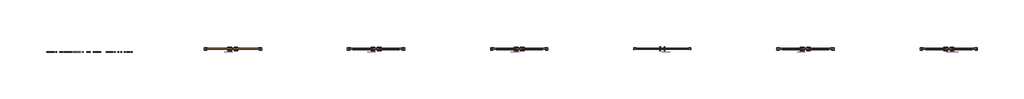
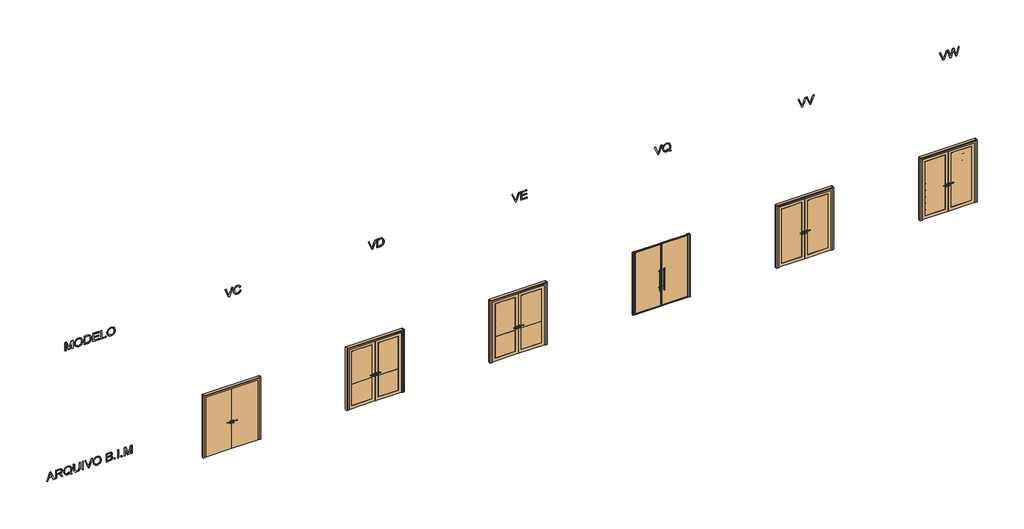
# One storey: 8 proxies, 6 doors.
"""IFC4 building model written with IfcOpenShell, lengths in millimetres."""

from ifc_helpers import new_model, si_unit, frame, origin, place, context, project, spatial, polyline, outline, extrude, transform, mapped, element, save
from components import vc_ec550be7, vd_505fe819, ve_1859068e, vq_b7f1955d, vv_b9688fd8, vw_93026b2b

model = new_model("IFC4")

# Units and contexts
model_context = context("Model", 3, world=origin())
ifc_project = project(units=[si_unit("LENGTHUNIT", "METRE", prefix="MILLI")], contexts=[model_context])

# Site, building, storey
site = spatial("IfcSite", under=ifc_project)
building = spatial("IfcBuilding", under=site)
storey = spatial("IfcBuildingStorey", under=building, Name="06 - Marelli - Planta Baixa - Porta de Giro (02 Folhas)", Elevation=60000.0)

# Proxies
placement = place(None, origin())
element("IfcBuildingElementProxy", 1, Name="300mm Arial", ObjectType="300mm Arial", at=placement, inside=storey, context=model_context, shape_type="SweptSolid", body=[
    extrude(outline(polyline([(61100.0, -7636.3146377), (61100.0, -7596.5098058), (61194.1777908, -7562.076051), (61194.1777908, -7437.9526659), (61100.0, -7403.4453347), (61100.0, -7363.6405028), (61401.3689304, -7483.9379153), (61401.3689304, -7516.0172252), (61100.0, -7636.3146377)]), holes=[polyline([(61231.8489071, -7548.243688), (61312.415064, -7518.739552), (61363.6978141, -7499.9775703), (61305.9403409, -7478.8611437), (61231.8489071, -7451.7114525), (61231.8489071, -7548.243688)])]), frame((0.0, 8778.3159498, 0.0), z_axis=(0.0, 1.0, 0.0), x_axis=(0.0, 0.0, 1.0)), (0.0, 0.0, 1.0), 10.0),
    extrude(outline(polyline([(61100.0, -7323.3942126), (61100.0, -7285.7230963), (61231.8489071, -7285.7230963), (61231.8489071, -7240.2528817), (61230.5245319, -7218.4006911), (61223.350833, -7200.484838), (61203.816299, -7180.582422), (61162.4663628, -7152.2555084), (61100.0, -7113.0392877), (61100.0, -7069.2613303), (61181.6698029, -7119.5140108), (61220.4445652, -7150.0482164), (61236.5577966, -7171.4589486), (61246.5457928, -7134.3488523), (61254.5610217, -7119.9669655), (61264.5904046, -7108.3671864), (61289.2017101, -7093.0540983), (61318.8897871, -7087.9497357), (61342.7561316, -7091.0307474), (61364.4703663, -7100.2737825), (61381.9815493, -7114.6763626), (61393.2387384, -7133.2360093), (61399.3363824, -7158.629064), (61401.3689304, -7193.5318683), (61401.3689304, -7323.3942126), (61100.0, -7323.3942126)]), holes=[polyline([(61269.5200234, -7285.7230963), (61363.6978141, -7285.7230963), (61363.6978141, -7191.9131875), (61360.4420585, -7162.1055488), (61350.6747915, -7141.5501423), (61335.8675412, -7129.6031746), (61317.4918355, -7125.620852), (61304.1837044, -7127.7085823), (61291.9240369, -7133.9717732), (61281.7888879, -7144.254075), (61274.8543123, -7158.3991377), (61270.8535956, -7177.1887106), (61269.5200234, -7201.404543), (61269.5200234, -7285.7230963)])]), frame((0.0, 8778.3159498, 0.0), z_axis=(0.0, 1.0, 0.0), x_axis=(0.0, 0.0, 1.0)), (0.0, 0.0, 1.0), 10.0),
    extrude(outline(polyline([(61136.1260119, -6795.6307023), (61159.6520655, -6777.1814202), (61186.9673037, -6764.0664271), (61218.0349382, -6756.2305406), (61252.8181808, -6753.6185784), (61294.6463636, -6757.9227978), (61331.9863862, -6770.8354558), (61363.1827793, -6791.9610794), (61386.5800742, -6820.9041954), (61401.2033836, -6855.7702114), (61406.07782, -6894.6645354), (61401.3137481, -6933.2553567), (61387.0215326, -6967.9466288), (61363.6150407, -6996.93573), (61331.5081396, -7018.4200386), (61293.055274, -7031.7189727), (61250.6108888, -7036.1519507), (61208.2032918, -7031.7097756), (61170.3022493, -7018.3832504), (61138.6460036, -6996.8161684), (61114.9727972, -6967.6523232), (61100.2115321, -6932.8322924), (61095.2911105, -6894.2966534), (61099.5585416, -6855.9449554), (61112.360835, -6821.0881364), (61091.52032, -6790.1308665), (61077.1177399, -6759.063232), (61104.7088895, -6748.9096889), (61117.5295771, -6771.2953083), (61136.1260119, -6795.6307023)]), holes=[polyline([(61186.2315397, -6883.9223811), (61157.3895912, -6893.6344658), (61150.712533, -6873.2721974), (61140.6877487, -6853.9767867), (61134.8936072, -6873.6032912), (61132.9622268, -6894.5173826), (61134.8637168, -6916.2385151), (61140.568187, -6935.9316982), (61150.0756373, -6953.5969318), (61163.3860678, -6969.2342158), (61180.251158, -6982.0296115), (61200.4225876, -6991.1691798), (61223.9003567, -6996.6529208), (61250.6844652, -6998.4808344), (61278.1859436, -6996.6322274), (61302.0499888, -6991.0864063), (61322.2766007, -6981.8433712), (61338.8657795, -6968.903122), (61351.7899338, -6953.1577726), (61361.0214726, -6935.4994369), (61366.5603959, -6915.9281147), (61368.4067037, -6894.4438062), (61364.7554749, -6865.9605427), (61353.8017885, -6840.4019411), (61336.2354232, -6819.2027411), (61312.7461578, -6803.7976826), (61284.0605592, -6794.4166917), (61250.9051944, -6791.2896947), (61221.7321522, -6793.5015852), (61196.4586591, -6800.1372567), (61175.0847152, -6811.1967092), (61157.6103204, -6826.6799427), (61174.2569807, -6852.2477413), (61186.2315397, -6883.9223811)])]), frame((0.0, 8778.3159498, 0.0), z_axis=(0.0, 1.0, 0.0), x_axis=(0.0, 0.0, 1.0)), (0.0, 0.0, 1.0), 10.0),
    extrude(outline(polyline([(61401.3689304, -6499.3385434), (61228.8322747, -6499.3385434), (61181.6698029, -6504.1026152), (61164.9311721, -6510.057705), (61152.7542781, -6518.3948307), (61144.0952556, -6529.5278596), (61137.9102396, -6543.8706589), (61132.9622268, -6582.1855687), (61135.4638243, -6606.3554158), (61142.968617, -6626.4785609), (61155.0811317, -6641.9112106), (61171.4058953, -6652.0095714), (61194.9779341, -6657.5829836), (61228.8322747, -6659.4407877), (61401.3689304, -6659.4407877), (61401.3689304, -6697.111904), (61227.5078995, -6697.111904), (61184.7324205, -6694.2516215), (61152.0553023, -6685.6707739), (61127.6923172, -6670.4036711), (61109.8592375, -6647.4846228), (61098.9331422, -6616.904432), (61095.2911105, -6578.6539015), (61099.4757682, -6539.5480454), (61112.0297412, -6508.7563224), (61131.2515755, -6486.2235502), (61155.4398167, -6471.8945465), (61186.7925597, -6464.2242069), (61227.5078995, -6461.6674271), (61401.3689304, -6461.6674271), (61401.3689304, -6499.3385434)])), frame((0.0, 8778.3159498, 0.0), z_axis=(0.0, 1.0, 0.0), x_axis=(0.0, 0.0, 1.0)), (0.0, 0.0, 1.0), 10.0),
    extrude(outline(polyline([(-6353.3629677, 8778.3159498), (-6391.034084, 8778.3159498), (-6391.034084, 8788.3159498), (-6353.3629677, 8788.3159498), (-6353.3629677, 8778.3159498)])), frame((0.0, 0.0, 61100.0), z_axis=(0.0, 0.0, 1.0), x_axis=(1.0, 0.0, 0.0)), (0.0, 0.0, 1.0), 301.3689304),
    extrude(outline(polyline([(61100.0, -6188.9932922), (61100.0, -6150.0713771), (61401.3689304, -6035.2186183), (61401.3689304, -6075.5384849), (61184.2449769, -6156.0310655), (61135.3166715, -6172.0707205), (61184.2449769, -6188.3311046), (61401.3689304, -6268.602956), (61401.3689304, -6308.9228227), (61100.0, -6188.9932922)])), frame((0.0, 8778.3159498, 0.0), z_axis=(0.0, 1.0, 0.0), x_axis=(0.0, 0.0, 1.0)), (0.0, 0.0, 1.0), 10.0),
    extrude(outline(polyline([(61246.7113397, -6014.3229209), (61208.1665036, -6010.0187016), (61171.7002009, -5997.1060436), (61140.007167, -5975.8424642), (61115.7821376, -5946.485481), (61100.4138672, -5910.8377157), (61095.2911105, -5870.70179), (61099.9264236, -5832.892718), (61113.832363, -5797.7507904), (61136.7514113, -5767.7868019), (61168.4260511, -5745.5115471), (61206.8881137, -5731.6883811), (61250.1694304, -5727.0806591), (61292.8805301, -5731.4584548), (61330.8091638, -5744.5918421), (61362.4286213, -5766.0761506), (61386.2121922, -5795.5067102), (61401.1114131, -5830.9521404), (61406.07782, -5870.4810608), (61403.4336681, -5900.7715446), (61395.5012126, -5928.1465636), (61382.2804534, -5952.6061177), (61363.7713905, -5974.1502071), (61340.5902263, -5991.7257694), (61313.3531631, -6004.2797425), (61282.0602009, -6011.8121263), (61246.7113397, -6014.3229209)]), holes=[polyline([(61246.3434577, -5976.6518046), (61276.8799625, -5974.6882345), (61302.7121764, -5968.797524), (61323.8400992, -5958.9796733), (61340.263731, -5945.2346822), (61352.5762816, -5928.7673644), (61361.3709605, -5910.7825334), (61366.6477679, -5891.2801891), (61368.4067037, -5870.2603316), (61364.7554749, -5841.0964864), (61353.8017885, -5814.9676677), (61336.2078321, -5793.3086153), (61312.6357932, -5777.5540688), (61283.8122389, -5767.9523488), (61250.463736, -5764.7517754), (61223.9256486, -5766.6210758), (61200.5973316, -5772.228977), (61180.478785, -5781.5754789), (61163.5700088, -5794.6605816), (61150.1791041, -5810.642755), (61140.6141723, -5828.6804691), (61134.8752131, -5848.7737238), (61132.9622268, -5870.9225192), (61134.856819, -5892.6988341), (61140.5405959, -5912.557564), (61150.0135572, -5930.4987091), (61163.2757032, -5946.5222692), (61179.8349915, -5959.703941), (61199.19938, -5969.1194208), (61221.3688687, -5974.7687087), (61246.3434577, -5976.6518046)])]), frame((0.0, 8778.3159498, 0.0), z_axis=(0.0, 1.0, 0.0), x_axis=(0.0, 0.0, 1.0)), (0.0, 0.0, 1.0), 10.0),
    extrude(outline(polyline([(61100.0, -5557.5606357), (61100.0, -5443.4436408), (61105.1871361, -5395.1407348), (61111.6066769, -5377.10532), (61120.4910271, -5362.3624491), (61132.7598917, -5350.3235108), (61149.3329756, -5340.399894), (61168.8215242, -5333.7504269), (61189.8367832, -5331.5339379), (61215.055094, -5334.7804965), (61236.7049494, -5344.5201723), (61253.6643094, -5360.2931129), (61264.8111338, -5381.6394656), (61276.5557665, -5363.7695977), (61291.4825785, -5351.0684718), (61308.543106, -5343.4809057), (61326.6888854, -5340.951717), (61346.4073604, -5343.9591523), (61365.2429185, -5352.9814582), (61381.2549824, -5367.3104619), (61392.5029744, -5386.2379906), (61399.1524414, -5410.9320695), (61401.3689304, -5442.560724), (61401.3689304, -5557.5606357), (61100.0, -5557.5606357)]), holes=[polyline([(61278.9378025, -5519.8895194), (61363.6978141, -5519.8895194), (61363.6978141, -5456.3195106), (61359.7614768, -5407.9062401), (61354.1604734, -5395.4166463), (61345.230138, -5386.2012024), (61333.7890079, -5380.5174255), (61320.6556207, -5378.6228333), (61307.1267603, -5380.6553813), (61296.1178916, -5386.7530254), (61287.7577733, -5396.8605832), (61282.175164, -5410.9228724), (61278.9378025, -5451.0955863), (61278.9378025, -5519.8895194)]), polyline([(61137.6711163, -5519.8895194), (61241.2666861, -5519.8895194), (61241.2666861, -5446.3131204), (61240.0066903, -5419.4853259), (61236.2267028, -5399.776048), (61229.3381125, -5385.8609115), (61218.752308, -5376.4155413), (61205.2142506, -5371.007676), (61189.4689012, -5369.2050542), (61175.9124497, -5370.7409615), (61164.0850436, -5375.3486835), (61147.3464128, -5391.0204565), (61139.1426443, -5414.6752688), (61137.6711163, -5442.6343004), (61137.6711163, -5519.8895194)])]), frame((0.0, 8778.3159498, 0.0), z_axis=(0.0, 1.0, 0.0), x_axis=(0.0, 0.0, 1.0)), (0.0, 0.0, 1.0), 10.0),
    extrude(outline(polyline([(-5237.3561471, 8778.3159498), (-5275.0272634, 8778.3159498), (-5275.0272634, 8788.3159498), (-5237.3561471, 8788.3159498), (-5237.3561471, 8778.3159498)])), frame((0.0, 0.0, 61100.0), z_axis=(0.0, 0.0, 1.0), x_axis=(1.0, 0.0, 0.0)), (0.0, 0.0, 1.0), 37.6711163),
    extrude(outline(polyline([(-5119.6339087, 8778.3159498), (-5157.305025, 8778.3159498), (-5157.305025, 8788.3159498), (-5119.6339087, 8788.3159498), (-5119.6339087, 8778.3159498)])), frame((0.0, 0.0, 61100.0), z_axis=(0.0, 0.0, 1.0), x_axis=(1.0, 0.0, 0.0)), (0.0, 0.0, 1.0), 301.3689304),
    extrude(outline(polyline([(-5001.9116702, 8778.3159498), (-5039.5827865, 8778.3159498), (-5039.5827865, 8788.3159498), (-5001.9116702, 8788.3159498), (-5001.9116702, 8778.3159498)])), frame((0.0, 0.0, 61100.0), z_axis=(0.0, 0.0, 1.0), x_axis=(1.0, 0.0, 0.0)), (0.0, 0.0, 1.0), 37.6711163),
    extrude(outline(polyline([(61100.0, -4926.5694376), (61100.0, -4888.8983213), (61363.6978141, -4888.8983213), (61100.0, -4813.1882067), (61100.0, -4762.1261857), (61363.6978141, -4686.4160711), (61100.0, -4686.4160711), (61100.0, -4648.7449548), (61401.3689304, -4648.7449548), (61401.3689304, -4713.5657624), (61192.6326864, -4774.1927152), (61144.5872978, -4787.6571962), (61188.9538664, -4800.0916076), (61401.3689304, -4861.74863), (61401.3689304, -4926.5694376), (61100.0, -4926.5694376)])), frame((0.0, 8778.3159498, 0.0), z_axis=(0.0, 1.0, 0.0), x_axis=(0.0, 0.0, 1.0)), (0.0, 0.0, 1.0), 10.0),
])
element("IfcBuildingElementProxy", 2, Name="300mm Arial", ObjectType="300mm Arial", at=placement, inside=storey, context=model_context, shape_type="SweptSolid", body=[
    extrude(outline(polyline([(65700.0, -6993.7719449), (65700.0, -6956.1008286), (65963.6978141, -6956.1008286), (65700.0, -6880.390714), (65700.0, -6829.328693), (65963.6978141, -6753.6185784), (65700.0, -6753.6185784), (65700.0, -6715.9474621), (66001.3689304, -6715.9474621), (66001.3689304, -6780.7682697), (65792.6326864, -6841.3952225), (65744.5872978, -6854.8597035), (65788.9538664, -6867.2941149), (66001.3689304, -6928.9511373), (66001.3689304, -6993.7719449), (65700.0, -6993.7719449)])), frame((0.0, 8778.3159498, 0.0), z_axis=(0.0, 1.0, 0.0), x_axis=(0.0, 0.0, 1.0)), (0.0, 0.0, 1.0), 10.0),
    extrude(outline(polyline([(65846.7113397, -6664.1496772), (65808.1665036, -6659.8454579), (65771.7002009, -6646.9327998), (65740.007167, -6625.6692205), (65715.7821376, -6596.3122373), (65700.4138672, -6560.664472), (65695.2911105, -6520.5285463), (65699.9264236, -6482.7194742), (65713.832363, -6447.5775466), (65736.7514113, -6417.6135581), (65768.4260511, -6395.3383033), (65806.8881137, -6381.5151374), (65850.1694304, -6376.9074154), (65892.8805301, -6381.2852111), (65930.8091638, -6394.4185983), (65962.4286213, -6415.9029069), (65986.2121922, -6445.3334665), (66001.1114131, -6480.7788967), (66006.07782, -6520.3078171), (66003.4336681, -6550.5983009), (65995.5012126, -6577.9733198), (65982.2804534, -6602.432874), (65963.7713905, -6623.9769633), (65940.5902263, -6641.5525257), (65913.3531631, -6654.1064987), (65882.0602009, -6661.6388826), (65846.7113397, -6664.1496772)]), holes=[polyline([(65846.3434577, -6626.4785609), (65876.8799625, -6624.5149908), (65902.7121764, -6618.6242803), (65923.8400992, -6608.8064296), (65940.263731, -6595.0614385), (65952.5762816, -6578.5941207), (65961.3709605, -6560.6092897), (65966.6477679, -6541.1069454), (65968.4067037, -6520.0870879), (65964.7554749, -6490.9232427), (65953.8017885, -6464.794424), (65936.2078321, -6443.1353716), (65912.6357932, -6427.3808251), (65883.8122389, -6417.779105), (65850.463736, -6414.5785317), (65823.9256486, -6416.4478321), (65800.5973316, -6422.0557332), (65780.478785, -6431.4022352), (65763.5700088, -6444.4873379), (65750.1791041, -6460.4695113), (65740.6141723, -6478.5072254), (65734.8752131, -6498.6004801), (65732.9622268, -6520.7492755), (65734.856819, -6542.5255903), (65740.5405959, -6562.3843203), (65750.0135572, -6580.3254653), (65763.2757032, -6596.3490255), (65779.8349915, -6609.5306972), (65799.19938, -6618.9461771), (65821.3688687, -6624.5954649), (65846.3434577, -6626.4785609)])]), frame((0.0, 8778.3159498, 0.0), z_axis=(0.0, 1.0, 0.0), x_axis=(0.0, 0.0, 1.0)), (0.0, 0.0, 1.0), 10.0),
    extrude(outline(polyline([(65700.0, -6325.1096305), (65700.0, -6216.1429835), (65705.1503479, -6167.6929247), (65711.5055094, -6148.1491937), (65720.2702979, -6131.6772774), (65732.088507, -6117.3298796), (65747.6039302, -6104.1597042), (65767.2580258, -6092.7185741), (65791.4922522, -6083.5583124), (65819.9571216, -6077.5434418), (65852.303146, -6075.5384849), (65890.3789325, -6078.499935), (65923.9665587, -6087.3842852), (65952.5142015, -6102.2283237), (65975.470038, -6123.0688387), (65988.6586075, -6143.3391366), (65997.0279229, -6167.3618309), (66001.3689304, -6221.1461786), (66001.3689304, -6325.1096305), (65700.0, -6325.1096305)]), holes=[polyline([(65737.6711163, -6287.4385141), (65963.6978141, -6287.4385141), (65963.6978141, -6221.8083662), (65962.189498, -6190.06015), (65957.6645494, -6168.3919005), (65945.0829852, -6147.10073), (65924.2608643, -6129.2860444), (65893.9473879, -6117.228712), (65852.8917572, -6113.2096012), (65821.9068962, -6115.2605434), (65795.9068361, -6121.4133697), (65774.7996067, -6131.245016), (65758.4932372, -6144.332418), (65749.6824634, -6156.5093121), (65743.1157698, -6172.2914497), (65739.0322797, -6193.2055411), (65737.6711163, -6220.7782966), (65737.6711163, -6287.4385141)])]), frame((0.0, 8778.3159498, 0.0), z_axis=(0.0, 1.0, 0.0), x_axis=(0.0, 0.0, 1.0)), (0.0, 0.0, 1.0), 10.0),
    extrude(outline(polyline([(65700.0, -6023.7407), (65700.0, -5802.4228917), (65737.6711163, -5802.4228917), (65737.6711163, -5986.0695837), (65836.5577966, -5986.0695837), (65836.5577966, -5816.5495603), (65874.2289129, -5816.5495603), (65874.2289129, -5986.0695837), (65963.6978141, -5986.0695837), (65963.6978141, -5807.1317812), (66001.3689304, -5807.1317812), (66001.3689304, -6023.7407), (65700.0, -6023.7407)])), frame((0.0, 8778.3159498, 0.0), z_axis=(0.0, 1.0, 0.0), x_axis=(0.0, 0.0, 1.0)), (0.0, 0.0, 1.0), 10.0),
    extrude(outline(polyline([(65700.0, -5745.9162172), (65700.0, -5557.5606357), (65737.6711163, -5557.5606357), (65737.6711163, -5708.2451009), (66001.3689304, -5708.2451009), (66001.3689304, -5745.9162172), (65700.0, -5745.9162172)])), frame((0.0, 8778.3159498, 0.0), z_axis=(0.0, 1.0, 0.0), x_axis=(0.0, 0.0, 1.0)), (0.0, 0.0, 1.0), 10.0),
    extrude(outline(polyline([(65846.7113397, -5529.3072985), (65808.1665036, -5525.0030791), (65771.7002009, -5512.0904211), (65740.007167, -5490.8268418), (65715.7821376, -5461.4698586), (65700.4138672, -5425.8220932), (65695.2911105, -5385.6861676), (65699.9264236, -5347.8770955), (65713.832363, -5312.7351679), (65736.7514113, -5282.7711794), (65768.4260511, -5260.4959246), (65806.8881137, -5246.6727586), (65850.1694304, -5242.0650367), (65892.8805301, -5246.4428324), (65930.8091638, -5259.5762196), (65962.4286213, -5281.0605281), (65986.2121922, -5310.4910878), (66001.1114131, -5345.936518), (66006.07782, -5385.4654384), (66003.4336681, -5415.7559222), (65995.5012126, -5443.1309411), (65982.2804534, -5467.5904953), (65963.7713905, -5489.1345846), (65940.5902263, -5506.7101469), (65913.3531631, -5519.26412), (65882.0602009, -5526.7965039), (65846.7113397, -5529.3072985)]), holes=[polyline([(65846.3434577, -5491.6361822), (65876.8799625, -5489.672612), (65902.7121764, -5483.7819016), (65923.8400992, -5473.9640508), (65940.263731, -5460.2190598), (65952.5762816, -5443.751742), (65961.3709605, -5425.7669109), (65966.6477679, -5406.2645667), (65968.4067037, -5385.2447092), (65964.7554749, -5356.080864), (65953.8017885, -5329.9520453), (65936.2078321, -5308.2929928), (65912.6357932, -5292.5384464), (65883.8122389, -5282.9367263), (65850.463736, -5279.736153), (65823.9256486, -5281.6054533), (65800.5973316, -5287.2133545), (65780.478785, -5296.5598565), (65763.5700088, -5309.6449592), (65750.1791041, -5325.6271326), (65740.6141723, -5343.6648467), (65734.8752131, -5363.7581014), (65732.9622268, -5385.9068968), (65734.856819, -5407.6832116), (65740.5405959, -5427.5419416), (65750.0135572, -5445.4830866), (65763.2757032, -5461.5066468), (65779.8349915, -5474.6883185), (65799.19938, -5484.1037983), (65821.3688687, -5489.7530862), (65846.3434577, -5491.6361822)])]), frame((0.0, 8778.3159498, 0.0), z_axis=(0.0, 1.0, 0.0), x_axis=(0.0, 0.0, 1.0)), (0.0, 0.0, 1.0), 10.0),
])
element("IfcBuildingElementProxy", 3, Name="300mm Arial", ObjectType="300mm Arial", at=placement, inside=storey, context=model_context, shape_type="SweptSolid", body=[
    extrude(outline(polyline([(65700.0, -1292.5888621), (65700.0, -1253.666947), (66001.3689304, -1138.8141881), (66001.3689304, -1179.1340548), (65784.2449769, -1259.6266353), (65735.3166715, -1275.6662903), (65784.2449769, -1291.9266745), (66001.3689304, -1372.1985258), (66001.3689304, -1412.5183925), (65700.0, -1292.5888621)])), frame((0.0, 8778.3159498, 0.0), z_axis=(0.0, 1.0, 0.0), x_axis=(0.0, 0.0, 1.0)), (0.0, 0.0, 1.0), 10.0),
    extrude(outline(polyline([(65807.127237, -891.8917929), (65774.863986, -904.077884), (65751.6506321, -923.8607383), (65737.6343281, -950.0631334), (65732.9622268, -981.507847), (65736.3927264, -1008.4827943), (65746.6842252, -1033.4895729), (65763.9102996, -1054.348482), (65788.144526, -1068.8798208), (65818.2372732, -1077.4054861), (65853.03891, -1080.2473745), (65881.4577941, -1077.8469444), (65909.0305497, -1070.6456544), (65933.4211259, -1057.5214642), (65952.2934723, -1037.3523338), (65964.3783958, -1010.7728597), (65968.4067037, -978.4176382), (65964.773869, -950.348242), (65953.8753649, -927.5027701), (65935.0306097, -909.6604933), (65907.5590217, -896.6006825), (65916.5353424, -858.9295662), (65954.3536115, -875.5670294), (65969.6758966, -887.3691437), (65982.6069487, -901.493513), (65992.8754549, -917.673423), (66000.2101022, -935.6421592), (66006.07782, -976.9461102), (66001.5436744, -1014.8011675), (65987.9412376, -1049.3452869), (65965.6016035, -1078.4723438), (65934.8558657, -1100.076214), (65896.9088379, -1113.4579216), (65852.9653336, -1117.9184908), (65811.3026976, -1113.9729564), (65772.3991767, -1102.1363532), (65739.3081912, -1082.748972), (65715.0831618, -1056.1511038), (65700.2391233, -1021.4506346), (65695.2911105, -977.7554506), (65696.9258861, -955.333043), (65701.8302129, -934.7132572), (65710.004091, -915.8960931), (65721.4475203, -898.8815508), (65736.004151, -884.0053227), (65753.5176332, -871.6031009), (65773.987967, -861.6748856), (65797.4151523, -854.2206766), (65807.127237, -891.8917929)])), frame((0.0, 8778.3159498, 0.0), z_axis=(0.0, 1.0, 0.0), x_axis=(0.0, 0.0, 1.0)), (0.0, 0.0, 1.0), 10.0),
])
element("IfcBuildingElementProxy", 4, Name="300mm Arial", ObjectType="300mm Arial", at=placement, inside=storey, context=model_context, shape_type="SweptSolid", body=[
    extrude(outline(polyline([(65700.0, 3707.4111379), (65700.0, 3746.333053), (66001.3689304, 3861.1858119), (66001.3689304, 3820.8659452), (65784.2449769, 3740.3733647), (65735.3166715, 3724.3337097), (65784.2449769, 3708.0733255), (66001.3689304, 3627.8014742), (66001.3689304, 3587.4816075), (65700.0, 3707.4111379)])), frame((0.0, 8778.3159498, 0.0), z_axis=(0.0, 1.0, 0.0), x_axis=(0.0, 0.0, 1.0)), (0.0, 0.0, 1.0), 10.0),
    extrude(outline(polyline([(65700.0, 3896.2081778), (65700.0, 4005.1748248), (65705.1503479, 4053.6248836), (65711.5055094, 4073.1686146), (65720.2702979, 4089.6405309), (65732.088507, 4103.9879287), (65747.6039302, 4117.1581041), (65767.2580258, 4128.5992342), (65791.4922522, 4137.7594959), (65819.9571216, 4143.7743665), (65852.303146, 4145.7793234), (65890.3789325, 4142.8178733), (65923.9665587, 4133.9335231), (65952.5142015, 4119.0894846), (65975.470038, 4098.2489696), (65988.6586075, 4077.9786717), (65997.0279229, 4053.9559774), (66001.3689304, 4000.1716297), (66001.3689304, 3896.2081778), (65700.0, 3896.2081778)]), holes=[polyline([(65737.6711163, 3933.8792942), (65963.6978141, 3933.8792942), (65963.6978141, 3999.5094421), (65962.189498, 4031.2576583), (65957.6645494, 4052.9259078), (65945.0829852, 4074.2170783), (65924.2608643, 4092.0317639), (65893.9473879, 4104.0890963), (65852.8917572, 4108.1082071), (65821.9068962, 4106.0572649), (65795.9068361, 4099.9044386), (65774.7996067, 4090.0727923), (65758.4932372, 4076.9853903), (65749.6824634, 4064.8084962), (65743.1157698, 4049.0263586), (65739.0322797, 4028.1122672), (65737.6711163, 4000.5395117), (65737.6711163, 3933.8792942)])]), frame((0.0, 8778.3159498, 0.0), z_axis=(0.0, 1.0, 0.0), x_axis=(0.0, 0.0, 1.0)), (0.0, 0.0, 1.0), 10.0),
])
element("IfcBuildingElementProxy", 5, Name="300mm Arial", ObjectType="300mm Arial", at=placement, inside=storey, context=model_context, shape_type="SweptSolid", body=[
    extrude(outline(polyline([(65700.0, 8719.1833618), (65700.0, 8758.1052769), (66001.3689304, 8872.9580357), (66001.3689304, 8832.6381691), (65784.2449769, 8752.1455885), (65735.3166715, 8736.1059335), (65784.2449769, 8719.8455494), (66001.3689304, 8639.573698), (66001.3689304, 8599.2538313), (65700.0, 8719.1833618)])), frame((0.0, 8778.3159498, 0.0), z_axis=(0.0, 1.0, 0.0), x_axis=(0.0, 0.0, 1.0)), (0.0, 0.0, 1.0), 10.0),
    extrude(outline(polyline([(65700.0, 8907.9804017), (65700.0, 9129.29821), (65737.6711163, 9129.29821), (65737.6711163, 8945.651518), (65836.5577966, 8945.651518), (65836.5577966, 9115.1715414), (65874.2289129, 9115.1715414), (65874.2289129, 8945.651518), (65963.6978141, 8945.651518), (65963.6978141, 9124.5893205), (66001.3689304, 9124.5893205), (66001.3689304, 8907.9804017), (65700.0, 8907.9804017)])), frame((0.0, 8778.3159498, 0.0), z_axis=(0.0, 1.0, 0.0), x_axis=(0.0, 0.0, 1.0)), (0.0, 0.0, 1.0), 10.0),
])
element("IfcBuildingElementProxy", 6, Name="300mm Arial", ObjectType="300mm Arial", at=placement, inside=storey, context=model_context, shape_type="SweptSolid", body=[
    extrude(outline(polyline([(65700.0, 13695.6389141), (65700.0, 13734.5608292), (66001.3689304, 13849.4135881), (66001.3689304, 13809.0937214), (65784.2449769, 13728.6011408), (65735.3166715, 13712.5614859), (65784.2449769, 13696.3011017), (66001.3689304, 13616.0292503), (66001.3689304, 13575.7093836), (65700.0, 13695.6389141)])), frame((0.0, 8778.3159498, 0.0), z_axis=(0.0, 1.0, 0.0), x_axis=(0.0, 0.0, 1.0)), (0.0, 0.0, 1.0), 10.0),
    extrude(outline(polyline([(65736.1260119, 14110.8305338), (65759.6520655, 14129.2798159), (65786.9673037, 14142.394809), (65818.0349382, 14150.2306955), (65852.8181808, 14152.8426577), (65894.6463636, 14148.5384383), (65931.9863862, 14135.6257803), (65963.1827793, 14114.5001567), (65986.5800742, 14085.5570408), (66001.2033836, 14050.6910247), (66006.07782, 14011.7967007), (66001.3137481, 13973.2058794), (65987.0215326, 13938.5146073), (65963.6150407, 13909.5255061), (65931.5081396, 13888.0411976), (65893.055274, 13874.7422634), (65850.6108888, 13870.3092854), (65808.2032918, 13874.7514605), (65770.3022493, 13888.0779858), (65738.6460036, 13909.6450677), (65714.9727972, 13938.8089129), (65700.2115321, 13973.6289437), (65695.2911105, 14012.1645827), (65699.5585416, 14050.5162807), (65712.360835, 14085.3730998), (65691.52032, 14116.3303697), (65677.1177399, 14147.3980042), (65704.7088895, 14157.5515472), (65717.5295771, 14135.1659278), (65736.1260119, 14110.8305338)]), holes=[polyline([(65786.2315397, 14022.538855), (65757.3895912, 14012.8267703), (65750.712533, 14033.1890387), (65740.6877487, 14052.4844494), (65734.8936072, 14032.857945), (65732.9622268, 14011.9438535), (65734.8637168, 13990.222721), (65740.568187, 13970.5295379), (65750.0756373, 13952.8643044), (65763.3860678, 13937.2270203), (65780.251158, 13924.4316247), (65800.4225876, 13915.2920563), (65823.9003567, 13909.8083154), (65850.6844652, 13907.9804017), (65878.1859436, 13909.8290087), (65902.0499888, 13915.3748298), (65922.2766007, 13924.6178649), (65938.8657795, 13937.5581141), (65951.7899338, 13953.3034635), (65961.0214726, 13970.9617993), (65966.5603959, 13990.5331214), (65968.4067037, 14012.0174299), (65964.7554749, 14040.5006934), (65953.8017885, 14066.059295), (65936.2354232, 14087.258495), (65912.7461578, 14102.6635535), (65884.0605592, 14112.0445444), (65850.9051944, 14115.1715414), (65821.7321522, 14112.9596509), (65796.4586591, 14106.3239794), (65775.0847152, 14095.2645269), (65757.6103204, 14079.7812934), (65774.2569807, 14054.2134948), (65786.2315397, 14022.538855)])]), frame((0.0, 8778.3159498, 0.0), z_axis=(0.0, 1.0, 0.0), x_axis=(0.0, 0.0, 1.0)), (0.0, 0.0, 1.0), 10.0),
])
element("IfcBuildingElementProxy", 7, Name="300mm Arial", ObjectType="300mm Arial", at=placement, inside=storey, context=model_context, shape_type="SweptSolid", body=[
    extrude(outline(polyline([(65700.0, 18719.1833618), (65700.0, 18758.1052769), (66001.3689304, 18872.9580357), (66001.3689304, 18832.6381691), (65784.2449769, 18752.1455885), (65735.3166715, 18736.1059335), (65784.2449769, 18719.8455494), (66001.3689304, 18639.573698), (66001.3689304, 18599.2538313), (65700.0, 18719.1833618)])), frame((0.0, 8778.3159498, 0.0), z_axis=(0.0, 1.0, 0.0), x_axis=(0.0, 0.0, 1.0)), (0.0, 0.0, 1.0), 10.0),
    extrude(outline(polyline([(65700.0, 18997.0078445), (65700.0, 19035.9297596), (66001.3689304, 19150.7825185), (66001.3689304, 19110.4626518), (65784.2449769, 19029.9700713), (65735.3166715, 19013.9304163), (65784.2449769, 18997.6700321), (66001.3689304, 18917.3981808), (66001.3689304, 18877.0783141), (65700.0, 18997.0078445)])), frame((0.0, 8778.3159498, 0.0), z_axis=(0.0, 1.0, 0.0), x_axis=(0.0, 0.0, 1.0)), (0.0, 0.0, 1.0), 10.0),
])
element("IfcBuildingElementProxy", 8, Name="300mm Arial", ObjectType="300mm Arial", at=placement, inside=storey, context=model_context, shape_type="SweptSolid", body=[
    extrude(outline(polyline([(65700.0, 23648.5500187), (65700.0, 23687.4719338), (66001.3689304, 23802.3246927), (66001.3689304, 23762.004826), (65784.2449769, 23681.5122455), (65735.3166715, 23665.4725905), (65784.2449769, 23649.2122063), (66001.3689304, 23568.9403549), (66001.3689304, 23528.6204883), (65700.0, 23648.5500187)])), frame((0.0, 8778.3159498, 0.0), z_axis=(0.0, 1.0, 0.0), x_axis=(0.0, 0.0, 1.0)), (0.0, 0.0, 1.0), 10.0),
    extrude(outline(polyline([(65700.0, 23891.2785591), (65700.0, 23936.7487737), (65925.879545, 24002.5996508), (65964.9486129, 24013.9304163), (65932.501421, 24024.010383), (65700.0, 24096.2624068), (65700.0, 24136.5086971), (66001.3689304, 24218.7671112), (66001.3689304, 24179.9187725), (65801.5354307, 24131.7998076), (65742.1592766, 24117.5259861), (65797.4887287, 24103.8223818), (65852.671028, 24085.225947), (66001.3689304, 24041.8158715), (66001.3689304, 23985.8242319), (65796.2379299, 23926.0801959), (65742.1592766, 23910.3348465), (65803.3012642, 23895.6195667), (66001.3689304, 23847.9420601), (66001.3689304, 23809.0937214), (65700.0, 23891.2785591)])), frame((0.0, 8778.3159498, 0.0), z_axis=(0.0, 1.0, 0.0), x_axis=(0.0, 0.0, 1.0)), (0.0, 0.0, 1.0), 10.0),
])

# Doors
vc_shape = vc_ec550be7(model_context)
element("IfcDoor", 9, ObjectType="Mobiliário_Mobiliário de Escritório_Porta Dupla de Giro Cega - VC_Marelli : VC", at=placement, inside=storey, context=model_context, shape_type="MappedRepresentation", body=[
    mapped(vc_shape, transform((-1124.9818251, 8888.3159498, 60000.0), x_axis=(-1.0, 0.0, 0.0), y_axis=(0.0, -1.0, 0.0), z_axis=(0.0, 0.0, 1.0))),
])
vd_shape = vd_505fe819(model_context)
element("IfcDoor", 10, ObjectType="Mobiliário_Mobiliário de Escritório_Porta Dupla de Giro Mista Vidro Duplo - VD_Marelli : VD", at=placement, inside=storey, context=model_context, shape_type="MappedRepresentation", body=[
    mapped(vd_shape, transform((3875.0181749, 8888.3159498, 60000.0), x_axis=(-1.0, 0.0, 0.0), y_axis=(0.0, -1.0, 0.0), z_axis=(0.0, 0.0, 1.0))),
])
ve_shape = ve_1859068e(model_context)
element("IfcDoor", 11, ObjectType="Mobiliário_Mobiliário de Escritório_Porta Dupla de Giro Mista Vidro Duplo com Persiana - VE_Marelli : VE", at=placement, inside=storey, context=model_context, shape_type="MappedRepresentation", body=[
    mapped(ve_shape, transform((8875.0181749, 8888.3159498, 60000.0), x_axis=(-1.0, 0.0, 0.0), y_axis=(0.0, -1.0, 0.0), z_axis=(0.0, 0.0, 1.0))),
])
vq_shape = vq_b7f1955d(model_context)
element("IfcDoor", 12, ObjectType="Mobiliário_Mobiliário de Escritório_Porta Dupla de Giro Emoldurada_Marelli : VQ", at=placement, inside=storey, context=model_context, shape_type="MappedRepresentation", body=[
    mapped(vq_shape, transform((13875.0181749, 8888.3159498, 60000.0), x_axis=(1.0, 0.0, 0.0), y_axis=(0.0, 1.0, 0.0), z_axis=(0.0, 0.0, 1.0))),
])
vv_shape = vv_b9688fd8(model_context)
element("IfcDoor", 13, ObjectType="Mobiliário_Mobiliário de Escritório_Porta Dupla de Giro Vidro Duplo - VV_Marelli : VV", at=placement, inside=storey, context=model_context, shape_type="MappedRepresentation", body=[
    mapped(vv_shape, transform((18875.0181749, 8888.3159498, 60000.0), x_axis=(1.0, 0.0, 0.0), y_axis=(0.0, 1.0, 0.0), z_axis=(0.0, 0.0, 1.0))),
])
vw_shape = vw_93026b2b(model_context)
element("IfcDoor", 14, ObjectType="Mobiliário_Mobiliário de Escritório_Porta Dupla de Giro Vidro Duplo com Persiana - VW_Marelli : VW", at=placement, inside=storey, context=model_context, shape_type="MappedRepresentation", body=[
    mapped(vw_shape, transform((23884.0181749, 8888.3159498, 60000.0), x_axis=(1.0, 0.0, 0.0), y_axis=(0.0, 1.0, 0.0), z_axis=(0.0, 0.0, 1.0))),
])

save(model, "model.ifc")
